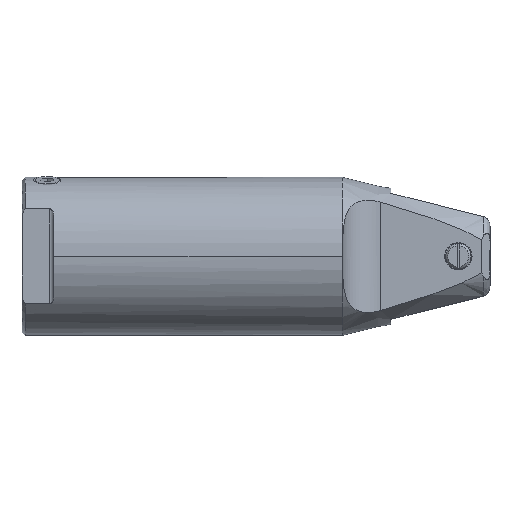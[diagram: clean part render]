
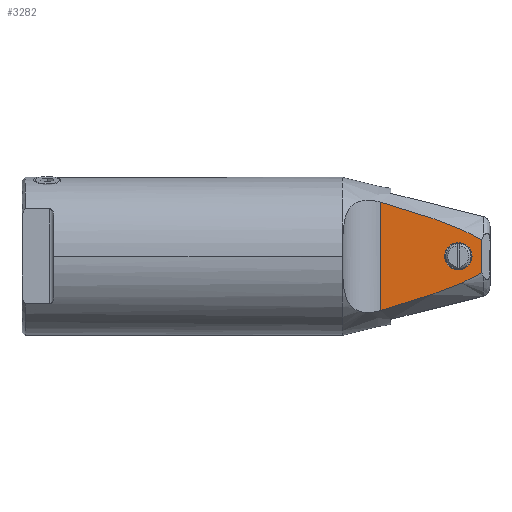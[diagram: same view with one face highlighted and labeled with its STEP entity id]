
A CAD part, top view. The second image highlights one B-rep face of the part: STEP entity #3282.
In plain terms, the highlighted planar face has unit normal (0, 0, -1).
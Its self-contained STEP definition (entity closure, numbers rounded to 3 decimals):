
#117 = EDGE_CURVE ( 'NONE', #2272, #620, #2320, .T. ) ;
#184 = CARTESIAN_POINT ( 'NONE',  ( 112.976, -53.591, 21.5 ) ) ;
#187 = CARTESIAN_POINT ( 'NONE',  ( 106.687, -43.078, 21.5 ) ) ;
#220 = AXIS2_PLACEMENT_3D ( 'NONE', #3035, #4311, #486 ) ;
#486 = DIRECTION ( 'NONE',  ( 1., 0., 0. ) ) ;
#620 = VERTEX_POINT ( 'NONE', #4721 ) ;
#812 = CARTESIAN_POINT ( 'NONE',  ( 115.83, -52.062, 21.5 ) ) ;
#816 = DIRECTION ( 'NONE',  ( 1., 0., 0. ) ) ;
#959 = FACE_OUTER_BOUND ( 'NONE', #5226, .T. ) ;
#1157 = FACE_BOUND ( 'NONE', #8178, .T. ) ;
#1441 = CARTESIAN_POINT ( 'NONE',  ( 77.809, -66.411, 21.5 ) ) ;
#1458 = CARTESIAN_POINT ( 'NONE',  ( 115.844, -34.101, 21.5 ) ) ;
#1472 = CARTESIAN_POINT ( 'NONE',  ( 117.687, -50.92, 21.5 ) ) ;
#1531 = VERTEX_POINT ( 'NONE', #6414 ) ;
#1796 = AXIS2_PLACEMENT_3D ( 'NONE', #7549, #3725, #8170 ) ;
#1822 = CARTESIAN_POINT ( 'NONE',  ( 69.576, -17.337, 21.5 ) ) ;
#1981 = LINE ( 'NONE', #8252, #7768 ) ;
#2028 = VERTEX_POINT ( 'NONE', #3189 ) ;
#2073 = CARTESIAN_POINT ( 'NONE',  ( 90.072, -62.569, 21.5 ) ) ;
#2091 = CARTESIAN_POINT ( 'NONE',  ( 113.005, -32.579, 21.5 ) ) ;
#2272 = VERTEX_POINT ( 'NONE', #4802 ) ;
#2320 = LINE ( 'NONE', #5994, #2504 ) ;
#2504 = VECTOR ( 'NONE', #4629, 1000. ) ;
#2619 = CARTESIAN_POINT ( 'NONE',  ( 86.01, -22.28, 21.5 ) ) ;
#2710 = CARTESIAN_POINT ( 'NONE',  ( 98.157, -59.766, 21.5 ) ) ;
#2734 = CARTESIAN_POINT ( 'NONE',  ( 108.158, -30.31, 21.5 ) ) ;
#3035 = CARTESIAN_POINT ( 'NONE',  ( 69.576, -69.128, 21.5 ) ) ;
#3105 = ORIENTED_EDGE ( 'NONE', *, *, #6885, .T. ) ;
#3189 = CARTESIAN_POINT ( 'NONE',  ( 112.937, -43.078, 21.5 ) ) ;
#3255 = CARTESIAN_POINT ( 'NONE',  ( 73.699, -18.526, 21.5 ) ) ;
#3282 = ADVANCED_FACE ( 'NONE', ( #1157, #959 ), #4949, .F. ) ;
#3290 = CARTESIAN_POINT ( 'NONE',  ( 69.576, -68.819, 21.5 ) ) ;
#3339 = CARTESIAN_POINT ( 'NONE',  ( 117.687, -35.235, 21.5 ) ) ;
#3351 = CARTESIAN_POINT ( 'NONE',  ( 104.161, -57.502, 21.5 ) ) ;
#3367 = CARTESIAN_POINT ( 'NONE',  ( 102.212, -27.897, 21.5 ) ) ;
#3700 = ORIENTED_EDGE ( 'NONE', *, *, #5565, .T. ) ;
#3725 = DIRECTION ( 'NONE',  ( 0., 0., 1. ) ) ;
#3853 = CARTESIAN_POINT ( 'NONE',  ( 90.098, -23.595, 21.5 ) ) ;
#3903 = ORIENTED_EDGE ( 'NONE', *, *, #4697, .T. ) ;
#3979 = CARTESIAN_POINT ( 'NONE',  ( 116.775, -34.646, 21.5 ) ) ;
#3993 = CARTESIAN_POINT ( 'NONE',  ( 110.077, -55.002, 21.5 ) ) ;
#4011 = CARTESIAN_POINT ( 'NONE',  ( 96.18, -25.687, 21.5 ) ) ;
#4192 = CIRCLE ( 'NONE', #7968, 6.25 ) ;
#4311 = DIRECTION ( 'NONE',  ( 0., 0., 1. ) ) ;
#4442 = DIRECTION ( 'NONE',  ( 0., 1., 0. ) ) ;
#4574 = CARTESIAN_POINT ( 'NONE',  ( 73.698, -67.63, 21.5 ) ) ;
#4606 = CARTESIAN_POINT ( 'NONE',  ( 69.576, -68.819, 21.5 ) ) ;
#4629 = DIRECTION ( 'NONE',  ( 0., 1., 0. ) ) ;
#4643 = CARTESIAN_POINT ( 'NONE',  ( 113.934, -53.101, 21.5 ) ) ;
#4647 = DIRECTION ( 'NONE',  ( 0., 0., 1. ) ) ;
#4697 = EDGE_CURVE ( 'NONE', #1531, #2028, #6094, .T. ) ;
#4721 = CARTESIAN_POINT ( 'NONE',  ( 117.687, -35.235, 21.5 ) ) ;
#4802 = CARTESIAN_POINT ( 'NONE',  ( 117.687, -50.92, 21.5 ) ) ;
#4949 = PLANE ( 'NONE',  #220 ) ;
#5226 = EDGE_LOOP ( 'NONE', ( #8121, #7334, #3700, #6905 ) ) ;
#5286 = CARTESIAN_POINT ( 'NONE',  ( 116.768, -51.515, 21.5 ) ) ;
#5484 = B_SPLINE_CURVE_WITH_KNOTS ( 'NONE', 3,
 ( #3339, #3979, #1458, #5906, #2091, #6551, #2734, #7182, #3367, #7831, #4011, #3853, #2619, #7073, #3255, #7727 ),
 .UNSPECIFIED., .F., .F.,
 ( 4, 2, 2, 2, 2, 2, 2, 4 ),
 ( 0., 0.003, 0.006, 0.013, 0.019, 0.026, 0.039, 0.051 ),
 .UNSPECIFIED. ) ;
#5565 = EDGE_CURVE ( 'NONE', #6826, #6607, #1981, .T. ) ;
#5881 = EDGE_CURVE ( 'NONE', #620, #6607, #5484, .T. ) ;
#5890 = CARTESIAN_POINT ( 'NONE',  ( 85.995, -63.88, 21.5 ) ) ;
#5906 = CARTESIAN_POINT ( 'NONE',  ( 113.959, -33.068, 21.5 ) ) ;
#5994 = CARTESIAN_POINT ( 'NONE',  ( 117.687, -54.135, 21.5 ) ) ;
#6094 = CIRCLE ( 'NONE', #1796, 6.25 ) ;
#6414 = CARTESIAN_POINT ( 'NONE',  ( 100.437, -43.078, 21.5 ) ) ;
#6533 = CARTESIAN_POINT ( 'NONE',  ( 96.142, -60.482, 21.5 ) ) ;
#6551 = CARTESIAN_POINT ( 'NONE',  ( 110.116, -31.172, 21.5 ) ) ;
#6607 = VERTEX_POINT ( 'NONE', #1822 ) ;
#6826 = VERTEX_POINT ( 'NONE', #3290 ) ;
#6885 = EDGE_CURVE ( 'NONE', #2028, #1531, #4192, .T. ) ;
#6905 = ORIENTED_EDGE ( 'NONE', *, *, #5881, .F. ) ;
#7073 = CARTESIAN_POINT ( 'NONE',  ( 77.812, -19.746, 21.5 ) ) ;
#7167 = CARTESIAN_POINT ( 'NONE',  ( 102.167, -58.276, 21.5 ) ) ;
#7182 = CARTESIAN_POINT ( 'NONE',  ( 104.206, -28.672, 21.5 ) ) ;
#7334 = ORIENTED_EDGE ( 'NONE', *, *, #8138, .F. ) ;
#7549 = CARTESIAN_POINT ( 'NONE',  ( 106.687, -43.078, 21.5 ) ) ;
#7727 = CARTESIAN_POINT ( 'NONE',  ( 69.576, -17.337, 21.5 ) ) ;
#7768 = VECTOR ( 'NONE', #4442, 1000. ) ;
#7814 = CARTESIAN_POINT ( 'NONE',  ( 108.116, -55.864, 21.5 ) ) ;
#7831 = CARTESIAN_POINT ( 'NONE',  ( 98.199, -26.404, 21.5 ) ) ;
#7913 = B_SPLINE_CURVE_WITH_KNOTS ( 'NONE', 3,
 ( #4606, #4574, #1441, #5890, #2073, #6533, #2710, #7167, #3351, #7814, #3993, #184, #4643, #812, #5286, #1472 ),
 .UNSPECIFIED., .F., .F.,
 ( 4, 2, 2, 2, 2, 2, 2, 4 ),
 ( 0., 0.013, 0.026, 0.032, 0.038, 0.045, 0.048, 0.051 ),
 .UNSPECIFIED. ) ;
#7968 = AXIS2_PLACEMENT_3D ( 'NONE', #187, #4647, #816 ) ;
#8121 = ORIENTED_EDGE ( 'NONE', *, *, #117, .F. ) ;
#8138 = EDGE_CURVE ( 'NONE', #6826, #2272, #7913, .T. ) ;
#8170 = DIRECTION ( 'NONE',  ( 1., 0., 0. ) ) ;
#8178 = EDGE_LOOP ( 'NONE', ( #3105, #3903 ) ) ;
#8252 = CARTESIAN_POINT ( 'NONE',  ( 69.576, -69.128, 21.5 ) ) ;
